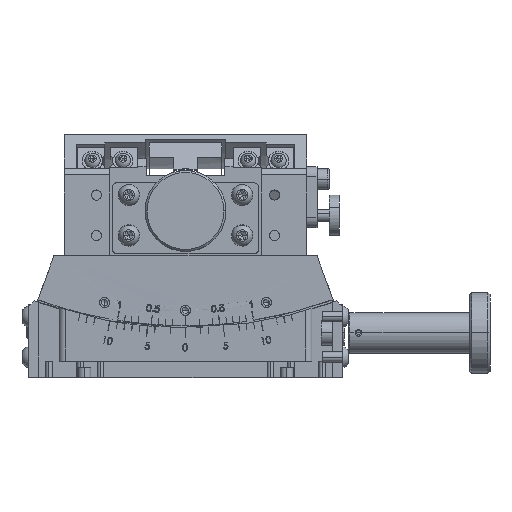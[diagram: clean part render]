
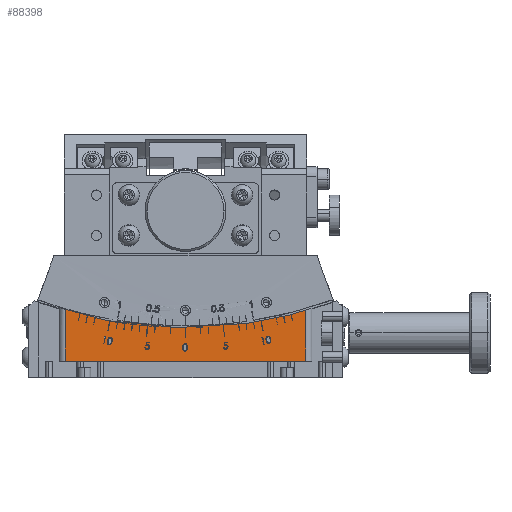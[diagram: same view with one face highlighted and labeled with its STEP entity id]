
A CAD part, top view. The second image highlights one B-rep face of the part: STEP entity #88398.
In plain terms, the highlighted planar face has unit normal (0, 0, 1).
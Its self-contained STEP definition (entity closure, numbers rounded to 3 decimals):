
#156 = EDGE_CURVE ( 'NONE', #62046, #67340, #24656, .T. ) ;
#2503 = CARTESIAN_POINT ( 'NONE',  ( 11.938, 10., 19.5 ) ) ;
#2742 = CARTESIAN_POINT ( 'NONE',  ( 59.5, -16., 19.5 ) ) ;
#3605 = CARTESIAN_POINT ( 'NONE',  ( 59.5, -154.943, 19.5 ) ) ;
#4548 = DIRECTION ( 'NONE',  ( 0., 1., 0. ) ) ;
#4733 = VECTOR ( 'NONE', #51104, 1000. ) ;
#6008 = CARTESIAN_POINT ( 'NONE',  ( 72.5, 15.5, 19.5 ) ) ;
#8331 = CARTESIAN_POINT ( 'NONE',  ( 70.201, 22.331, 19.5 ) ) ;
#10141 = CARTESIAN_POINT ( 'NONE',  ( -11.942, 10., 19.5 ) ) ;
#10352 = CARTESIAN_POINT ( 'NONE',  ( -59.5, -16., 19.5 ) ) ;
#11245 = DIRECTION ( 'NONE',  ( 0.319, -0.948, 0. ) ) ;
#12232 = AXIS2_PLACEMENT_3D ( 'NONE', #80675, #88767, #51988 ) ;
#12796 = VERTEX_POINT ( 'NONE', #74057 ) ;
#16129 = ORIENTED_EDGE ( 'NONE', *, *, #156, .F. ) ;
#16221 = VERTEX_POINT ( 'NONE', #2742 ) ;
#16232 = VECTOR ( 'NONE', #55790, 1000. ) ;
#16261 = VERTEX_POINT ( 'NONE', #18008 ) ;
#16664 = PLANE ( 'NONE',  #12232 ) ;
#17112 = B_SPLINE_CURVE_WITH_KNOTS ( 'NONE', 3,
 ( #46417, #45944, #75089, #60743, #10141, #2503, #89900, #61204, #61672, #53117 ),
 .UNSPECIFIED., .F., .F.,
 ( 4, 2, 2, 2, 4 ),
 ( 0., 0.25, 0.5, 0.75, 1. ),
 .UNSPECIFIED. ) ;
#18008 = CARTESIAN_POINT ( 'NONE',  ( 59.5, 11.5, 19.5 ) ) ;
#19664 = VECTOR ( 'NONE', #85789, 1000. ) ;
#20003 = CARTESIAN_POINT ( 'NONE',  ( -59.5, -154.943, 19.5 ) ) ;
#21067 = LINE ( 'NONE', #28703, #4733 ) ;
#22940 = VERTEX_POINT ( 'NONE', #93537 ) ;
#23382 = DIRECTION ( 'NONE',  ( 0.956, -0.294, 0. ) ) ;
#23866 = LINE ( 'NONE', #59655, #55381 ) ;
#24656 = LINE ( 'NONE', #40851, #34220 ) ;
#26693 = CARTESIAN_POINT ( 'NONE',  ( 72.5, 15.5, 19.5 ) ) ;
#28703 = CARTESIAN_POINT ( 'NONE',  ( -62.5, -16., 19.5 ) ) ;
#29332 = ORIENTED_EDGE ( 'NONE', *, *, #90617, .T. ) ;
#34118 = LINE ( 'NONE', #3605, #72890 ) ;
#34220 = VECTOR ( 'NONE', #11245, 1000. ) ;
#35162 = CARTESIAN_POINT ( 'NONE',  ( -72.5, 15.5, 19.5 ) ) ;
#38105 = VERTEX_POINT ( 'NONE', #70756 ) ;
#40851 = CARTESIAN_POINT ( 'NONE',  ( 72.5, 15.5, 19.5 ) ) ;
#41488 = LINE ( 'NONE', #20003, #94015 ) ;
#45944 = CARTESIAN_POINT ( 'NONE',  ( -58.98, 18.263, 19.5 ) ) ;
#46342 = ORIENTED_EDGE ( 'NONE', *, *, #93362, .T. ) ;
#46417 = CARTESIAN_POINT ( 'NONE',  ( -70.205, 22.332, 19.5 ) ) ;
#46936 = EDGE_CURVE ( 'NONE', #22940, #38105, #23866, .T. ) ;
#49020 = VERTEX_POINT ( 'NONE', #10352 ) ;
#51104 = DIRECTION ( 'NONE',  ( 1., 0., 0. ) ) ;
#51486 = EDGE_LOOP ( 'NONE', ( #46342, #59689, #16129, #64015, #56075, #56118, #79475, #29332 ) ) ;
#51988 = DIRECTION ( 'NONE',  ( 1., 0., 0. ) ) ;
#52759 = EDGE_CURVE ( 'NONE', #38105, #49020, #41488, .T. ) ;
#53117 = CARTESIAN_POINT ( 'NONE',  ( 70.201, 22.331, 19.5 ) ) ;
#53358 = EDGE_CURVE ( 'NONE', #12796, #62046, #17112, .T. ) ;
#55381 = VECTOR ( 'NONE', #23382, 1000. ) ;
#55790 = DIRECTION ( 'NONE',  ( 0.956, 0.294, 0. ) ) ;
#56075 = ORIENTED_EDGE ( 'NONE', *, *, #83363, .F. ) ;
#56118 = ORIENTED_EDGE ( 'NONE', *, *, #46936, .T. ) ;
#59655 = CARTESIAN_POINT ( 'NONE',  ( -59.5, 11.5, 19.5 ) ) ;
#59689 = ORIENTED_EDGE ( 'NONE', *, *, #69044, .T. ) ;
#60066 = FACE_OUTER_BOUND ( 'NONE', #51486, .T. ) ;
#60743 = CARTESIAN_POINT ( 'NONE',  ( -23.881, 11.041, 19.5 ) ) ;
#61204 = CARTESIAN_POINT ( 'NONE',  ( 47.397, 15.171, 19.5 ) ) ;
#61672 = CARTESIAN_POINT ( 'NONE',  ( 58.976, 18.262, 19.5 ) ) ;
#62046 = VERTEX_POINT ( 'NONE', #8331 ) ;
#62955 = LINE ( 'NONE', #26693, #16232 ) ;
#64015 = ORIENTED_EDGE ( 'NONE', *, *, #53358, .F. ) ;
#67340 = VERTEX_POINT ( 'NONE', #6008 ) ;
#69044 = EDGE_CURVE ( 'NONE', #16261, #67340, #62955, .T. ) ;
#70153 = DIRECTION ( 'NONE',  ( 0., -1., 0. ) ) ;
#70756 = CARTESIAN_POINT ( 'NONE',  ( -59.5, 11.5, 19.5 ) ) ;
#72890 = VECTOR ( 'NONE', #4548, 1000. ) ;
#74057 = CARTESIAN_POINT ( 'NONE',  ( -70.205, 22.332, 19.5 ) ) ;
#75089 = CARTESIAN_POINT ( 'NONE',  ( -47.4, 15.172, 19.5 ) ) ;
#78632 = LINE ( 'NONE', #35162, #19664 ) ;
#79475 = ORIENTED_EDGE ( 'NONE', *, *, #52759, .T. ) ;
#80675 = CARTESIAN_POINT ( 'NONE',  ( -62.5, -154.943, 19.5 ) ) ;
#83363 = EDGE_CURVE ( 'NONE', #22940, #12796, #78632, .T. ) ;
#85789 = DIRECTION ( 'NONE',  ( 0.318, 0.948, 0. ) ) ;
#88398 = ADVANCED_FACE ( 'NONE', ( #60066 ), #16664, .T. ) ;
#88767 = DIRECTION ( 'NONE',  ( 0., 0., 1. ) ) ;
#89900 = CARTESIAN_POINT ( 'NONE',  ( 23.877, 11.04, 19.5 ) ) ;
#90617 = EDGE_CURVE ( 'NONE', #49020, #16221, #21067, .T. ) ;
#93362 = EDGE_CURVE ( 'NONE', #16221, #16261, #34118, .T. ) ;
#93537 = CARTESIAN_POINT ( 'NONE',  ( -72.5, 15.5, 19.5 ) ) ;
#94015 = VECTOR ( 'NONE', #70153, 1000. ) ;
